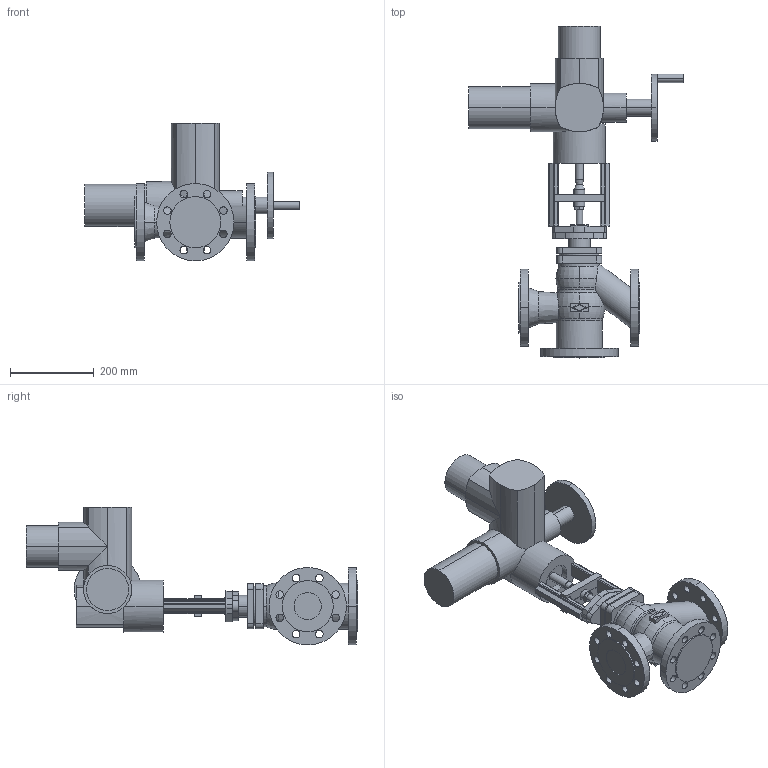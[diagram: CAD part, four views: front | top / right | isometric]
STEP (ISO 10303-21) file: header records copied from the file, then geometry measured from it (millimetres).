
FILE_DESCRIPTION(('OneSpaceDesigner STEP Export'),'2;1');
FILE_NAME('c000003168.stp','2007-01-24T10:36:25',(''),(''),'OneSpace Designer STEP processor for AP214 (Solid Model)','OneSpace Designer 14.00B 27-May-2006 (C) CoCreate Software GmbH','');
FILE_SCHEMA(('AUTOMOTIVE_DESIGN { 1 0 10303 214 1 1 1 1 }'));
Length unit declared in the file: millimetre
Products named in the file (2): 1; 2
Bounding box: 514 x 793.5 x 329.5 mm (x, y, z)
Volume: 13389038.7 mm3; surface area: 797708.4 mm2
Topology: 2 solids, 2 shells, 321 faces, 843 edges, 543 vertices
Faces by surface type: cylinder 164, plane 131, torus 18, cone 8
Entity records: 9336 total; most frequent: CARTESIAN_POINT 1994, ORIENTED_EDGE 1686, DIRECTION 1330, EDGE_CURVE 843, VERTEX_POINT 543, AXIS2_PLACEMENT_3D 457, VECTOR 416, LINE 416
